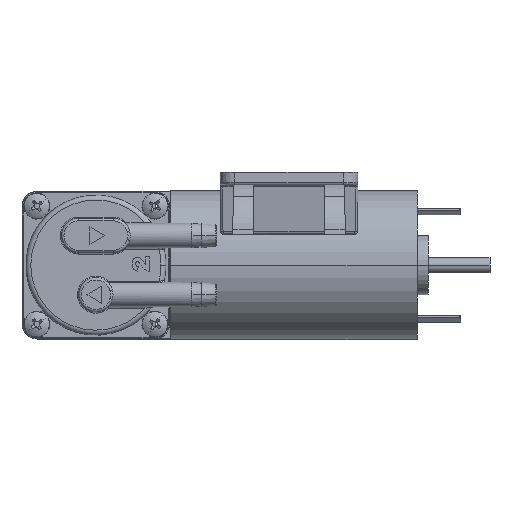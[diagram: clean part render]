
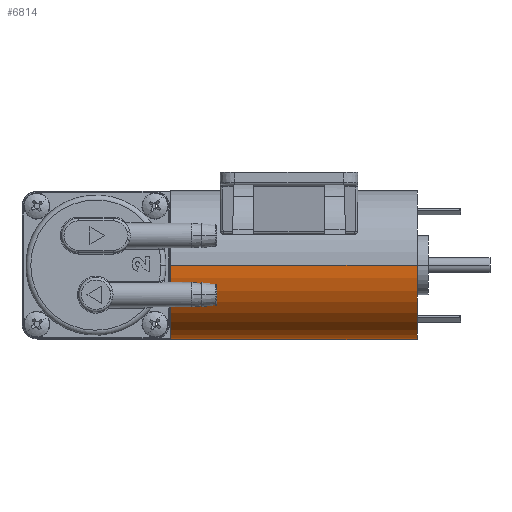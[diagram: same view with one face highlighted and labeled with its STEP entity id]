
A CAD part, front view. The second image highlights one B-rep face of the part: STEP entity #6814.
In plain terms, the highlighted cylindrical face has radius 15.1 mm (diameter 30.2 mm), a partial arc.
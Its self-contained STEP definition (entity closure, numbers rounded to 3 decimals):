
#1413 = CIRCLE ( 'NONE', #17206, 15.1 ) ;
#1445 = CARTESIAN_POINT ( 'NONE',  ( 0., 15.1, 0. ) ) ;
#3628 = VERTEX_POINT ( 'NONE', #1445 ) ;
#6513 = AXIS2_PLACEMENT_3D ( 'NONE', #11421, #11343, #21663 ) ;
#6814 = ADVANCED_FACE ( 'NONE', ( #15859 ), #20648, .T. ) ;
#7098 = ORIENTED_EDGE ( 'NONE', *, *, #24718, .T. ) ;
#8097 = CARTESIAN_POINT ( 'NONE',  ( 50., 0., 0. ) ) ;
#8137 = ORIENTED_EDGE ( 'NONE', *, *, #12512, .F. ) ;
#8277 = LINE ( 'NONE', #18680, #13085 ) ;
#8460 = DIRECTION ( 'NONE',  ( -1., 0., 0. ) ) ;
#8767 = VERTEX_POINT ( 'NONE', #8967 ) ;
#8967 = CARTESIAN_POINT ( 'NONE',  ( 50., -15.1, 0. ) ) ;
#10161 = DIRECTION ( 'NONE',  ( 0., -1., 0. ) ) ;
#10456 = DIRECTION ( 'NONE',  ( -1., 0., 0. ) ) ;
#10583 = LINE ( 'NONE', #19995, #15416 ) ;
#11343 = DIRECTION ( 'NONE',  ( -1., 0., 0. ) ) ;
#11421 = CARTESIAN_POINT ( 'NONE',  ( -16.1, 0., 0. ) ) ;
#12309 = CARTESIAN_POINT ( 'NONE',  ( 0., -15.1, 0. ) ) ;
#12512 = EDGE_CURVE ( 'NONE', #3628, #20898, #22819, .T. ) ;
#13085 = VECTOR ( 'NONE', #8460, 1000. ) ;
#13774 = EDGE_CURVE ( 'NONE', #19411, #3628, #10583, .T. ) ;
#15385 = EDGE_LOOP ( 'NONE', ( #18193, #23239, #7098, #8137 ) ) ;
#15416 = VECTOR ( 'NONE', #15888, 1000. ) ;
#15859 = FACE_OUTER_BOUND ( 'NONE', #15385, .T. ) ;
#15888 = DIRECTION ( 'NONE',  ( -1., 0., 0. ) ) ;
#16001 = EDGE_CURVE ( 'NONE', #19411, #8767, #1413, .T. ) ;
#17206 = AXIS2_PLACEMENT_3D ( 'NONE', #8097, #22420, #10161 ) ;
#18193 = ORIENTED_EDGE ( 'NONE', *, *, #13774, .F. ) ;
#18680 = CARTESIAN_POINT ( 'NONE',  ( -16.1, -15.1, 0. ) ) ;
#19411 = VERTEX_POINT ( 'NONE', #22328 ) ;
#19995 = CARTESIAN_POINT ( 'NONE',  ( -16.1, 15.1, 0. ) ) ;
#20648 = CYLINDRICAL_SURFACE ( 'NONE', #6513, 15.1 ) ;
#20898 = VERTEX_POINT ( 'NONE', #12309 ) ;
#21663 = DIRECTION ( 'NONE',  ( 0., -1., 0. ) ) ;
#22328 = CARTESIAN_POINT ( 'NONE',  ( 50., 15.1, 0. ) ) ;
#22420 = DIRECTION ( 'NONE',  ( -1., 0., 0. ) ) ;
#22729 = CARTESIAN_POINT ( 'NONE',  ( 0., 0., 0. ) ) ;
#22819 = CIRCLE ( 'NONE', #22961, 15.1 ) ;
#22961 = AXIS2_PLACEMENT_3D ( 'NONE', #22729, #10456, #24804 ) ;
#23239 = ORIENTED_EDGE ( 'NONE', *, *, #16001, .T. ) ;
#24718 = EDGE_CURVE ( 'NONE', #8767, #20898, #8277, .T. ) ;
#24804 = DIRECTION ( 'NONE',  ( 0., -1., 0. ) ) ;
